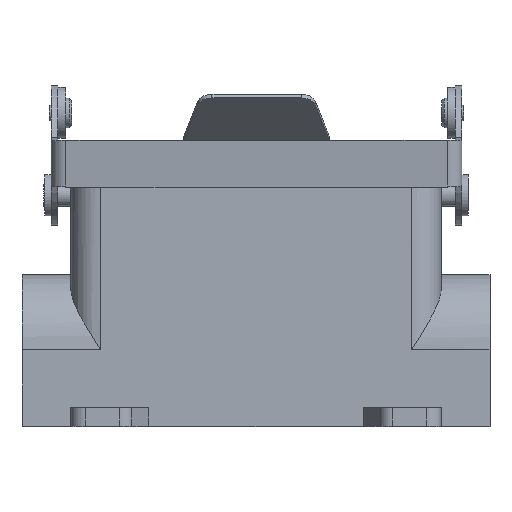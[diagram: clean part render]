
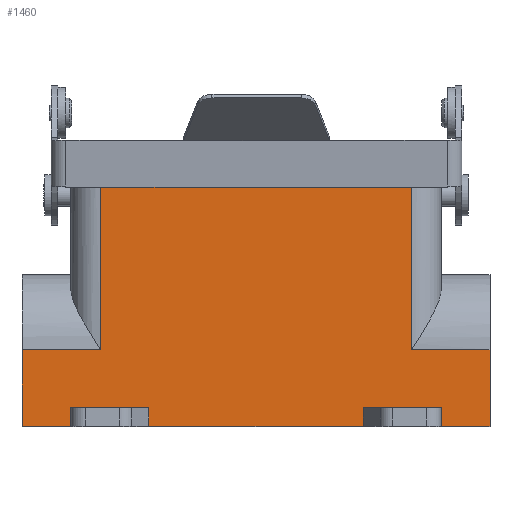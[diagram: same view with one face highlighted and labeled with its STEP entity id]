
A CAD part, top view. The second image highlights one B-rep face of the part: STEP entity #1460.
In plain terms, the highlighted planar face has unit normal (0, 0, 1).
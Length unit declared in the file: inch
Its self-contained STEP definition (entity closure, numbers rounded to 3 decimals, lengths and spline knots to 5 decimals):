
#711 = VERTEX_POINT ( 'NONE', #4596 ) ;
#726 = VERTEX_POINT ( 'NONE', #4785 ) ;
#728 = EDGE_CURVE ( 'NONE', #726, #711, #4794, .T. ) ;
#769 = VERTEX_POINT ( 'NONE', #4686 ) ;
#771 = EDGE_CURVE ( 'NONE', #769, #965, #4684, .T. ) ;
#815 = EDGE_CURVE ( 'NONE', #834, #847, #4924, .T. ) ;
#834 = VERTEX_POINT ( 'NONE', #4845 ) ;
#847 = VERTEX_POINT ( 'NONE', #5097 ) ;
#849 = EDGE_CURVE ( 'NONE', #847, #946, #5095, .T. ) ;
#914 = VERTEX_POINT ( 'NONE', #5269 ) ;
#916 = EDGE_CURVE ( 'NONE', #914, #834, #5267, .T. ) ;
#946 = VERTEX_POINT ( 'NONE', #5353 ) ;
#965 = VERTEX_POINT ( 'NONE', #5577 ) ;
#1020 = EDGE_CURVE ( 'NONE', #1287, #1196, #5486, .T. ) ;
#1040 = EDGE_CURVE ( 'NONE', #1113, #1239, #9937, .T. ) ;
#1046 = VERTEX_POINT ( 'NONE', #9972 ) ;
#1059 = EDGE_CURVE ( 'NONE', #965, #726, #5812, .T. ) ;
#1113 = VERTEX_POINT ( 'NONE', #5911 ) ;
#1196 = VERTEX_POINT ( 'NONE', #6270 ) ;
#1230 = EDGE_CURVE ( 'NONE', #914, #711, #6186, .T. ) ;
#1238 = EDGE_CURVE ( 'NONE', #1239, #946, #6182, .T. ) ;
#1239 = VERTEX_POINT ( 'NONE', #6136 ) ;
#1258 = VERTEX_POINT ( 'NONE', #6244 ) ;
#1260 = EDGE_CURVE ( 'NONE', #1046, #1258, #6246, .T. ) ;
#1270 = EDGE_CURVE ( 'NONE', #1258, #1113, #6404, .T. ) ;
#1287 = VERTEX_POINT ( 'NONE', #6342 ) ;
#1289 = EDGE_CURVE ( 'NONE', #769, #1287, #6340, .T. ) ;
#1335 = ORIENTED_EDGE ( 'NONE', *, *, #1059, .F. ) ;
#1336 = ORIENTED_EDGE ( 'NONE', *, *, #771, .F. ) ;
#1337 = ORIENTED_EDGE ( 'NONE', *, *, #1289, .T. ) ;
#1338 = ORIENTED_EDGE ( 'NONE', *, *, #1020, .T. ) ;
#1400 = ORIENTED_EDGE ( 'NONE', *, *, #1401, .T. ) ;
#1401 = EDGE_CURVE ( 'NONE', #1464, #1455, #6734, .T. ) ;
#1402 = ORIENTED_EDGE ( 'NONE', *, *, #1454, .T. ) ;
#1403 = ORIENTED_EDGE ( 'NONE', *, *, #1260, .T. ) ;
#1454 = EDGE_CURVE ( 'NONE', #1455, #1046, #6868, .T. ) ;
#1455 = VERTEX_POINT ( 'NONE', #6864 ) ;
#1460 = ADVANCED_FACE ( 'NONE', ( #6857 ), #6812, .F. ) ;
#1461 = EDGE_LOOP ( 'NONE', ( #1462, #1400, #1402, #1403, #1466, #1467, #1468, #1469, #1546, #1547, #1548, #1549, #1335, #1336, #1337, #1338 ) ) ;
#1462 = ORIENTED_EDGE ( 'NONE', *, *, #1463, .T. ) ;
#1463 = EDGE_CURVE ( 'NONE', #1196, #1464, #6782, .T. ) ;
#1464 = VERTEX_POINT ( 'NONE', #6778 ) ;
#1466 = ORIENTED_EDGE ( 'NONE', *, *, #1270, .T. ) ;
#1467 = ORIENTED_EDGE ( 'NONE', *, *, #1040, .T. ) ;
#1468 = ORIENTED_EDGE ( 'NONE', *, *, #1238, .T. ) ;
#1469 = ORIENTED_EDGE ( 'NONE', *, *, #849, .F. ) ;
#1546 = ORIENTED_EDGE ( 'NONE', *, *, #815, .F. ) ;
#1547 = ORIENTED_EDGE ( 'NONE', *, *, #916, .F. ) ;
#1548 = ORIENTED_EDGE ( 'NONE', *, *, #1230, .T. ) ;
#1549 = ORIENTED_EDGE ( 'NONE', *, *, #728, .F. ) ;
#4596 = CARTESIAN_POINT ( 'NONE',  ( 0.81158, -0.89788, 0.54096 ) ) ;
#4681 = DIRECTION ( 'NONE',  ( 0., 1., 0. ) ) ;
#4682 = VECTOR ( 'NONE', #4681, 39.37008 ) ;
#4683 = CARTESIAN_POINT ( 'NONE',  ( 1.47158, -0.89788, 0.54096 ) ) ;
#4684 = LINE ( 'NONE', #4683, #4682 ) ;
#4686 = CARTESIAN_POINT ( 'NONE',  ( 1.47158, -0.89788, 0.54096 ) ) ;
#4785 = CARTESIAN_POINT ( 'NONE',  ( 0.81158, -0.7404, 0.54096 ) ) ;
#4791 = DIRECTION ( 'NONE',  ( 0., -1., 0. ) ) ;
#4792 = VECTOR ( 'NONE', #4791, 39.37008 ) ;
#4793 = CARTESIAN_POINT ( 'NONE',  ( 0.81158, -0.89788, 0.54096 ) ) ;
#4794 = LINE ( 'NONE', #4793, #4792 ) ;
#4845 = CARTESIAN_POINT ( 'NONE',  ( -1.01342, -0.7404, 0.54096 ) ) ;
#4921 = DIRECTION ( 'NONE',  ( -1., 0., 0. ) ) ;
#4922 = VECTOR ( 'NONE', #4921, 39.37008 ) ;
#4923 = CARTESIAN_POINT ( 'NONE',  ( -1.67342, -0.7404, 0.54096 ) ) ;
#4924 = LINE ( 'NONE', #4923, #4922 ) ;
#5092 = DIRECTION ( 'NONE',  ( 0., -1., 0. ) ) ;
#5093 = VECTOR ( 'NONE', #5092, 39.37008 ) ;
#5094 = CARTESIAN_POINT ( 'NONE',  ( -1.67342, -0.89788, 0.54096 ) ) ;
#5095 = LINE ( 'NONE', #5094, #5093 ) ;
#5097 = CARTESIAN_POINT ( 'NONE',  ( -1.67342, -0.7404, 0.54096 ) ) ;
#5264 = DIRECTION ( 'NONE',  ( 0., 1., 0. ) ) ;
#5265 = VECTOR ( 'NONE', #5264, 39.37008 ) ;
#5266 = CARTESIAN_POINT ( 'NONE',  ( -1.01342, -0.89788, 0.54096 ) ) ;
#5267 = LINE ( 'NONE', #5266, #5265 ) ;
#5269 = CARTESIAN_POINT ( 'NONE',  ( -1.01342, -0.89788, 0.54096 ) ) ;
#5353 = CARTESIAN_POINT ( 'NONE',  ( -1.67342, -0.89788, 0.54096 ) ) ;
#5483 = DIRECTION ( 'NONE',  ( 0., 1., 0. ) ) ;
#5484 = VECTOR ( 'NONE', #5483, 39.37008 ) ;
#5485 = CARTESIAN_POINT ( 'NONE',  ( 1.88727, 0.39212, 0.54096 ) ) ;
#5486 = LINE ( 'NONE', #5485, #5484 ) ;
#5577 = CARTESIAN_POINT ( 'NONE',  ( 1.47158, -0.7404, 0.54096 ) ) ;
#5811 = CARTESIAN_POINT ( 'NONE',  ( 1.47158, -0.7404, 0.54096 ) ) ;
#5812 = LINE ( 'NONE', #5811, #5847 ) ;
#5846 = DIRECTION ( 'NONE',  ( -1., 0., 0. ) ) ;
#5847 = VECTOR ( 'NONE', #5846, 39.37008 ) ;
#5911 = CARTESIAN_POINT ( 'NONE',  ( -2.08911, -0.24788, 0.54096 ) ) ;
#6136 = CARTESIAN_POINT ( 'NONE',  ( -2.08911, -0.89788, 0.54096 ) ) ;
#6137 = DIRECTION ( 'NONE',  ( 1., 0., 0. ) ) ;
#6138 = VECTOR ( 'NONE', #6137, 39.37008 ) ;
#6181 = CARTESIAN_POINT ( 'NONE',  ( 1.88727, -0.89788, 0.54096 ) ) ;
#6182 = LINE ( 'NONE', #6181, #6138 ) ;
#6183 = DIRECTION ( 'NONE',  ( 1., 0., 0. ) ) ;
#6184 = VECTOR ( 'NONE', #6183, 39.37008 ) ;
#6185 = CARTESIAN_POINT ( 'NONE',  ( 1.88727, -0.89788, 0.54096 ) ) ;
#6186 = LINE ( 'NONE', #6185, #6184 ) ;
#6244 = CARTESIAN_POINT ( 'NONE',  ( -1.42342, -0.24788, 0.54096 ) ) ;
#6246 = LINE ( 'NONE', #6275, #6274 ) ;
#6270 = CARTESIAN_POINT ( 'NONE',  ( 1.88727, -0.24788, 0.54096 ) ) ;
#6273 = DIRECTION ( 'NONE',  ( 0., -1., 0. ) ) ;
#6274 = VECTOR ( 'NONE', #6273, 39.37008 ) ;
#6275 = CARTESIAN_POINT ( 'NONE',  ( -1.42342, -0.89788, 0.54096 ) ) ;
#6319 = DIRECTION ( 'NONE',  ( -1., 0., 0. ) ) ;
#6320 = VECTOR ( 'NONE', #6319, 39.37008 ) ;
#6321 = CARTESIAN_POINT ( 'NONE',  ( -2.08911, -0.24788, 0.54096 ) ) ;
#6337 = DIRECTION ( 'NONE',  ( 1., 0., 0. ) ) ;
#6338 = VECTOR ( 'NONE', #6337, 39.37008 ) ;
#6339 = CARTESIAN_POINT ( 'NONE',  ( 1.88727, -0.89788, 0.54096 ) ) ;
#6340 = LINE ( 'NONE', #6339, #6338 ) ;
#6342 = CARTESIAN_POINT ( 'NONE',  ( 1.88727, -0.89788, 0.54096 ) ) ;
#6404 = LINE ( 'NONE', #6321, #6320 ) ;
#6729 = DIRECTION ( 'NONE',  ( 0., 1., 0. ) ) ;
#6730 = VECTOR ( 'NONE', #6729, 39.37008 ) ;
#6733 = CARTESIAN_POINT ( 'NONE',  ( 1.22158, -0.89788, 0.54096 ) ) ;
#6734 = LINE ( 'NONE', #6733, #6730 ) ;
#6778 = CARTESIAN_POINT ( 'NONE',  ( 1.22158, -0.24788, 0.54096 ) ) ;
#6779 = DIRECTION ( 'NONE',  ( -1., 0., 0. ) ) ;
#6780 = VECTOR ( 'NONE', #6779, 39.37008 ) ;
#6781 = CARTESIAN_POINT ( 'NONE',  ( -2.08911, -0.24788, 0.54096 ) ) ;
#6782 = LINE ( 'NONE', #6781, #6780 ) ;
#6783 = DIRECTION ( 'NONE',  ( -1., 0., 0. ) ) ;
#6784 = DIRECTION ( 'NONE',  ( 0., 0., -1. ) ) ;
#6785 = AXIS2_PLACEMENT_3D ( 'NONE', #6813, #6784, #6783 ) ;
#6812 = PLANE ( 'NONE',  #6785 ) ;
#6813 = CARTESIAN_POINT ( 'NONE',  ( -2.08911, -0.89788, 0.54096 ) ) ;
#6857 = FACE_OUTER_BOUND ( 'NONE', #1461, .T. ) ;
#6864 = CARTESIAN_POINT ( 'NONE',  ( 1.22158, 1.34622, 0.54096 ) ) ;
#6865 = DIRECTION ( 'NONE',  ( -1., 0., 0. ) ) ;
#6866 = VECTOR ( 'NONE', #6865, 39.37008 ) ;
#6867 = CARTESIAN_POINT ( 'NONE',  ( -1.67342, 1.34622, 0.54096 ) ) ;
#6868 = LINE ( 'NONE', #6867, #6866 ) ;
#9934 = DIRECTION ( 'NONE',  ( 0., -1., 0. ) ) ;
#9935 = VECTOR ( 'NONE', #9934, 39.37008 ) ;
#9936 = CARTESIAN_POINT ( 'NONE',  ( -2.08911, -0.89788, 0.54096 ) ) ;
#9937 = LINE ( 'NONE', #9936, #9935 ) ;
#9972 = CARTESIAN_POINT ( 'NONE',  ( -1.42342, 1.34622, 0.54096 ) ) ;
